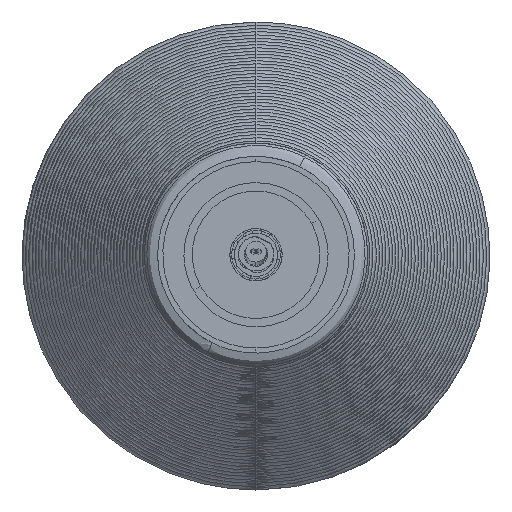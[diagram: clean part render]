
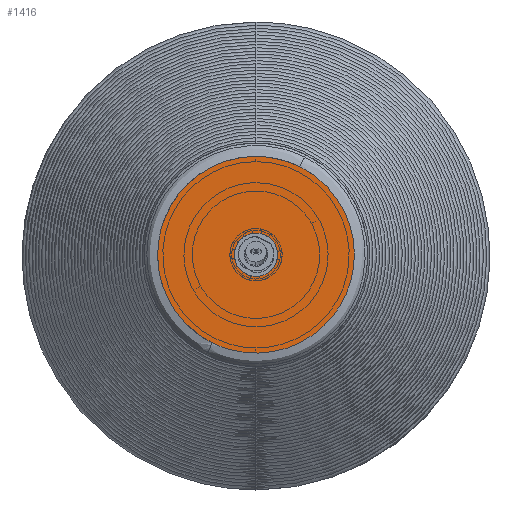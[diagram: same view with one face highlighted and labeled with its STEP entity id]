
A CAD part, top view. The second image highlights one B-rep face of the part: STEP entity #1416.
In plain terms, the highlighted planar face has unit normal (0, 0, 1).
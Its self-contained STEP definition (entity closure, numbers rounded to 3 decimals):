
#90=FACE_BOUND('',#4538,.T.);
#1416=ADVANCED_FACE('',(#2967,#90),#21717,.T.);
#2967=FACE_OUTER_BOUND('',#4537,.T.);
#4537=EDGE_LOOP('',(#10902,#10903));
#4538=EDGE_LOOP('',(#10904,#10905,#10906,#10907,#10908));
#10902=ORIENTED_EDGE('',*,*,#15128,.F.);
#10903=ORIENTED_EDGE('',*,*,#15148,.F.);
#10904=ORIENTED_EDGE('',*,*,#15155,.T.);
#10905=ORIENTED_EDGE('',*,*,#15140,.T.);
#10906=ORIENTED_EDGE('',*,*,#15150,.T.);
#10907=ORIENTED_EDGE('',*,*,#15120,.T.);
#10908=ORIENTED_EDGE('',*,*,#15141,.T.);
#15120=EDGE_CURVE('',#21103,#21104,#17809,.T.);
#15128=EDGE_CURVE('',#21111,#21112,#17815,.T.);
#15140=EDGE_CURVE('',#21121,#21122,#19031,.T.);
#15141=EDGE_CURVE('',#21104,#21123,#19032,.T.);
#15148=EDGE_CURVE('',#21112,#21111,#17827,.T.);
#15150=EDGE_CURVE('',#21122,#21103,#17829,.T.);
#15155=EDGE_CURVE('',#21123,#21121,#17832,.T.);
#17809=(
BOUNDED_CURVE()
B_SPLINE_CURVE(2,(#178405,#178406,#178407),.UNSPECIFIED.,.F.,.F.)
B_SPLINE_CURVE_WITH_KNOTS((3,3),(-5.972,0.),.UNSPECIFIED.)
CURVE()
GEOMETRIC_REPRESENTATION_ITEM()
RATIONAL_B_SPLINE_CURVE((1.,0.827,1.))
REPRESENTATION_ITEM('')
);
#17815=(
BOUNDED_CURVE()
B_SPLINE_CURVE(2,(#178431,#178432,#178433,#178434,#178435),
 .UNSPECIFIED.,.F.,.F.)
B_SPLINE_CURVE_WITH_KNOTS((3,2,3),(0.,42.883,85.765),
 .UNSPECIFIED.)
CURVE()
GEOMETRIC_REPRESENTATION_ITEM()
RATIONAL_B_SPLINE_CURVE((1.,0.707,1.,0.707,1.))
REPRESENTATION_ITEM('')
);
#17827=(
BOUNDED_CURVE()
B_SPLINE_CURVE(2,(#178495,#178496,#178497,#178498,#178499),
 .UNSPECIFIED.,.F.,.F.)
B_SPLINE_CURVE_WITH_KNOTS((3,2,3),(0.,42.883,85.765),
 .UNSPECIFIED.)
CURVE()
GEOMETRIC_REPRESENTATION_ITEM()
RATIONAL_B_SPLINE_CURVE((1.,0.707,1.,0.707,1.))
REPRESENTATION_ITEM('')
);
#17829=(
BOUNDED_CURVE()
B_SPLINE_CURVE(2,(#178505,#178506,#178507),.UNSPECIFIED.,.F.,.F.)
B_SPLINE_CURVE_WITH_KNOTS((3,3),(-5.972,0.),.UNSPECIFIED.)
CURVE()
GEOMETRIC_REPRESENTATION_ITEM()
RATIONAL_B_SPLINE_CURVE((1.,0.827,1.))
REPRESENTATION_ITEM('')
);
#17832=(
BOUNDED_CURVE()
B_SPLINE_CURVE(2,(#178520,#178521,#178522,#178523,#178524),
 .UNSPECIFIED.,.F.,.F.)
B_SPLINE_CURVE_WITH_KNOTS((3,2,3),(-11.944,-5.972,
0.),.UNSPECIFIED.)
CURVE()
GEOMETRIC_REPRESENTATION_ITEM()
RATIONAL_B_SPLINE_CURVE((1.,0.827,1.,0.827,1.))
REPRESENTATION_ITEM('')
);
#19031=B_SPLINE_CURVE_WITH_KNOTS('',1,(#178469,#178470),.UNSPECIFIED.,.F.,
 .F.,(2,2),(0.,3.676),.UNSPECIFIED.);
#19032=B_SPLINE_CURVE_WITH_KNOTS('',1,(#178471,#178472),.UNSPECIFIED.,.F.,
 .F.,(2,2),(0.,3.676),.UNSPECIFIED.);
#21103=VERTEX_POINT('',#178381);
#21104=VERTEX_POINT('',#178382);
#21111=VERTEX_POINT('',#178389);
#21112=VERTEX_POINT('',#178390);
#21121=VERTEX_POINT('',#178399);
#21122=VERTEX_POINT('',#178400);
#21123=VERTEX_POINT('',#178401);
#21717=PLANE('',#23256);
#23256=AXIS2_PLACEMENT_3D('',#178142,#23572,$);
#23572=DIRECTION('',(0.,0.,1.));
#178142=CARTESIAN_POINT('',(14.752,-45.033,273.));
#178381=CARTESIAN_POINT('',(4.477,-3.34,273.));
#178382=CARTESIAN_POINT('',(-0.424,-6.096,273.));
#178389=CARTESIAN_POINT('',(-12.153,-25.56,273.));
#178390=CARTESIAN_POINT('',(12.153,23.331,273.));
#178399=CARTESIAN_POINT('',(0.424,3.867,273.));
#178400=CARTESIAN_POINT('',(3.716,2.231,273.));
#178401=CARTESIAN_POINT('',(-3.716,-4.46,273.));
#178405=CARTESIAN_POINT('',(4.477,-3.34,273.));
#178406=CARTESIAN_POINT('',(2.964,-6.385,273.));
#178407=CARTESIAN_POINT('',(-0.424,-6.096,273.));
#178431=CARTESIAN_POINT('',(-12.153,-25.56,273.));
#178432=CARTESIAN_POINT('',(-36.599,-13.408,273.));
#178433=CARTESIAN_POINT('',(-24.446,11.038,273.));
#178434=CARTESIAN_POINT('',(-12.293,35.484,273.));
#178435=CARTESIAN_POINT('',(12.153,23.331,273.));
#178469=CARTESIAN_POINT('',(0.424,3.867,273.));
#178470=CARTESIAN_POINT('',(3.716,2.231,273.));
#178471=CARTESIAN_POINT('',(-0.424,-6.096,273.));
#178472=CARTESIAN_POINT('',(-3.716,-4.46,273.));
#178495=CARTESIAN_POINT('',(12.153,23.331,273.));
#178496=CARTESIAN_POINT('',(36.599,11.179,273.));
#178497=CARTESIAN_POINT('',(24.446,-13.267,273.));
#178498=CARTESIAN_POINT('',(12.293,-37.713,273.));
#178499=CARTESIAN_POINT('',(-12.153,-25.56,273.));
#178505=CARTESIAN_POINT('',(3.716,2.231,273.));
#178506=CARTESIAN_POINT('',(5.991,-0.296,273.));
#178507=CARTESIAN_POINT('',(4.477,-3.34,273.));
#178520=CARTESIAN_POINT('',(-3.716,-4.46,273.));
#178521=CARTESIAN_POINT('',(-5.991,-1.933,273.));
#178522=CARTESIAN_POINT('',(-4.477,1.111,273.));
#178523=CARTESIAN_POINT('',(-2.964,4.156,273.));
#178524=CARTESIAN_POINT('',(0.424,3.867,273.));
